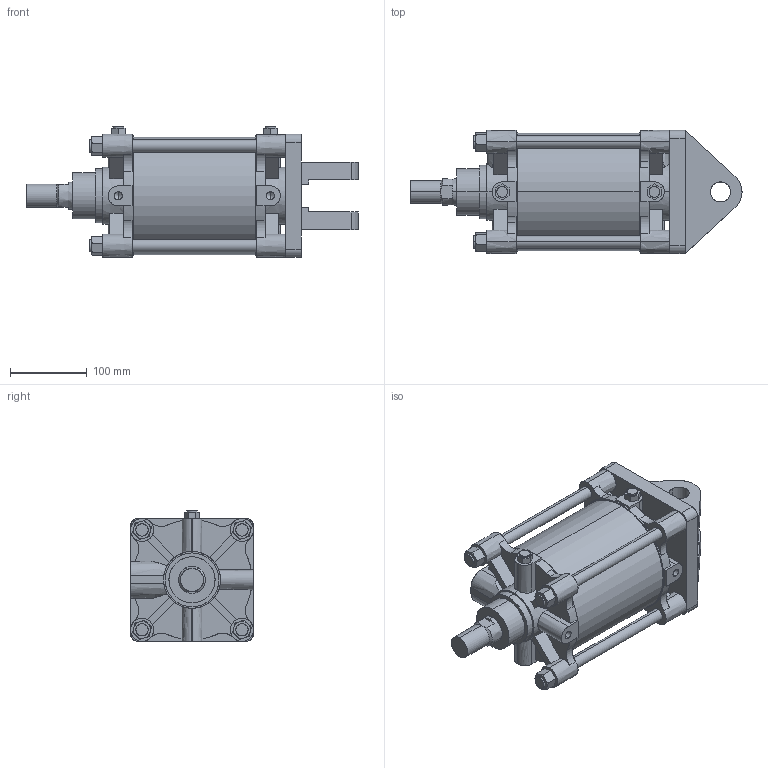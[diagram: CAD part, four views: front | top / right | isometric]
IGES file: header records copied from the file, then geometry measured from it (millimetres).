
Start section: SolidWorks IGES file using analytic representation for surfaces
Global section: file name: C:\Users\Toshiba\Desktop\A##2-140#-100-W.IGS; native system: SolidWorks 2014; preprocessor: SolidWorks 2014; author: Toshiba; date: 160331.145425; units: millimetre
Bounding box: 432 x 160 x 170 mm (x, y, z)
Surface area: 480902.3 mm2 (no closed solid volume)
Topology: 0 solids, 0 shells, 363 faces, 6788 edges, 6776 vertices
Faces by surface type: bspline 211, revolution 152
